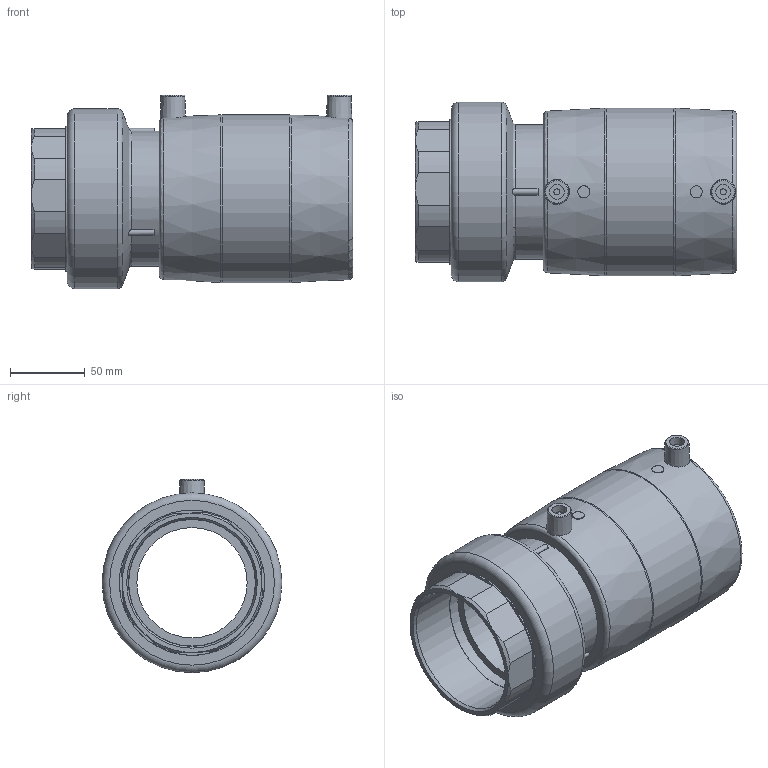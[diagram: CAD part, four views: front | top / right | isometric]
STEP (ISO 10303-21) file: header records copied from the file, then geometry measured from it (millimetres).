
FILE_DESCRIPTION(/* description */ ('Unknown'),/* implementation_level */ '2;1');
FILE_NAME(/* name */ 'MTFP090C',/* time_stamp */ '2021-03-02T09:38:33+01:00',/* author */ ('Unknown'),/* organization */ ('Unknown'),/* preprocessor_version */ 'ST-DEVELOPER v16.7',/* originating_system */ 'Solid Edge',/* authorisation */ 'Unknown');
FILE_SCHEMA (('AUTOMOTIVE_DESIGN {1 0 10303 214 3 1 1}'));
Length unit declared in the file: millimetre
Products named in the file (5): MTFP090C; MP090C; RTOFP090C; Parte PE 090; IOF090C
Assembly tree (4 placements, depth 3):
  MTFP090C
    MP090C
    RTOFP090C
      Parte PE 090
      IOF090C
Bounding box: 214.5 x 120 x 129 mm (x, y, z)
Volume: 886117.8 mm3; surface area: 222401.1 mm2
Topology: 3 solids, 3 shells, 521 faces, 1267 edges, 769 vertices
Faces by surface type: bspline 231, plane 117, cylinder 93, torus 41, cone 39
Full cylindrical faces by diameter (mm): 4 x2, 8 x2, 10 x2, 73.6 x1, 79.5 x2, 84.5 x2, 84.926 x1, 90 x2, 97 x2, 98.4 x2, 104 x4, 112 x1, 120 x1
Entity records: 19312 total; most frequent: CARTESIAN_POINT 7002, ORIENTED_EDGE 2410, DIRECTION 1972, EDGE_CURVE 1205, AXIS2_PLACEMENT_3D 908, VERTEX_POINT 747, EDGE_LOOP 584, FACE_BOUND 584
